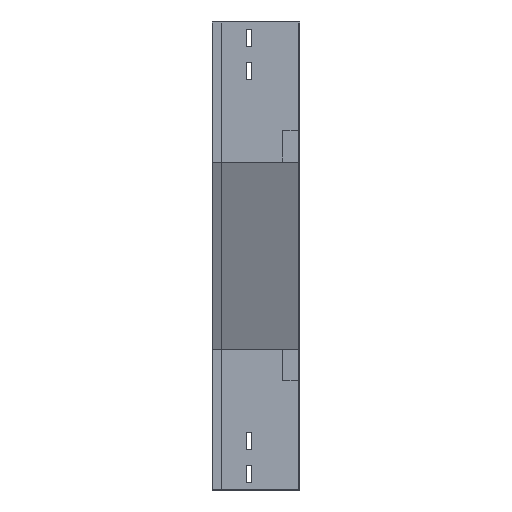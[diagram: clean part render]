
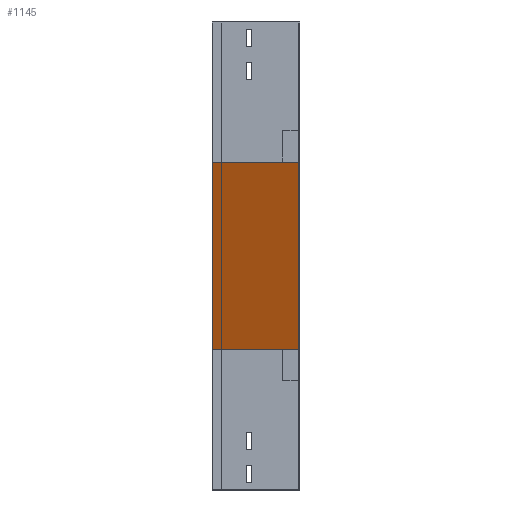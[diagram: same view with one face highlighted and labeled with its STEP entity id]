
A CAD part, left-side view. The second image highlights one B-rep face of the part: STEP entity #1145.
In plain terms, the highlighted planar face has unit normal (-0.923, 0, -0.385).
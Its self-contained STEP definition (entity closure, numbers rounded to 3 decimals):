
#39 = VECTOR ( 'NONE', #897, 1000. ) ;
#215 = CARTESIAN_POINT ( 'NONE',  ( 0., 0., -180. ) ) ;
#247 = VECTOR ( 'NONE', #327, 1000. ) ;
#327 = DIRECTION ( 'NONE',  ( 0., 1., 0. ) ) ;
#334 = PLANE ( 'NONE',  #2819 ) ;
#388 = LINE ( 'NONE', #1058, #1313 ) ;
#451 = LINE ( 'NONE', #1208, #39 ) ;
#557 = CARTESIAN_POINT ( 'NONE',  ( 0., 0., -180. ) ) ;
#607 = CARTESIAN_POINT ( 'NONE',  ( 100., 0., -420. ) ) ;
#750 = EDGE_CURVE ( 'NONE', #1643, #2796, #2076, .T. ) ;
#886 = CARTESIAN_POINT ( 'NONE',  ( 100., 112.5, -420. ) ) ;
#897 = DIRECTION ( 'NONE',  ( 0.385, 0., -0.923 ) ) ;
#988 = DIRECTION ( 'NONE',  ( 0.385, 0., -0.923 ) ) ;
#1030 = EDGE_LOOP ( 'NONE', ( #2879, #2287, #1896, #2860 ) ) ;
#1058 = CARTESIAN_POINT ( 'NONE',  ( 0., 112.5, -180. ) ) ;
#1145 = ADVANCED_FACE ( 'NONE', ( #1199 ), #334, .F. ) ;
#1146 = DIRECTION ( 'NONE',  ( 0.923, 0., 0.385 ) ) ;
#1199 = FACE_OUTER_BOUND ( 'NONE', #1030, .T. ) ;
#1208 = CARTESIAN_POINT ( 'NONE',  ( 0., 0., -180. ) ) ;
#1313 = VECTOR ( 'NONE', #988, 1000. ) ;
#1368 = LINE ( 'NONE', #557, #3011 ) ;
#1451 = CARTESIAN_POINT ( 'NONE',  ( 0., 0., -180. ) ) ;
#1643 = VERTEX_POINT ( 'NONE', #3262 ) ;
#1896 = ORIENTED_EDGE ( 'NONE', *, *, #2889, .T. ) ;
#1963 = VERTEX_POINT ( 'NONE', #215 ) ;
#2041 = DIRECTION ( 'NONE',  ( 0.385, 0., -0.923 ) ) ;
#2064 = VERTEX_POINT ( 'NONE', #2267 ) ;
#2076 = LINE ( 'NONE', #607, #247 ) ;
#2204 = DIRECTION ( 'NONE',  ( 0., -1., 0. ) ) ;
#2267 = CARTESIAN_POINT ( 'NONE',  ( 0., 112.5, -180. ) ) ;
#2274 = EDGE_CURVE ( 'NONE', #2064, #1963, #1368, .T. ) ;
#2287 = ORIENTED_EDGE ( 'NONE', *, *, #2274, .F. ) ;
#2796 = VERTEX_POINT ( 'NONE', #886 ) ;
#2819 = AXIS2_PLACEMENT_3D ( 'NONE', #1451, #1146, #2041 ) ;
#2860 = ORIENTED_EDGE ( 'NONE', *, *, #750, .F. ) ;
#2879 = ORIENTED_EDGE ( 'NONE', *, *, #3355, .F. ) ;
#2889 = EDGE_CURVE ( 'NONE', #2064, #2796, #388, .T. ) ;
#3011 = VECTOR ( 'NONE', #2204, 1000. ) ;
#3262 = CARTESIAN_POINT ( 'NONE',  ( 100., 0., -420. ) ) ;
#3355 = EDGE_CURVE ( 'NONE', #1963, #1643, #451, .T. ) ;
